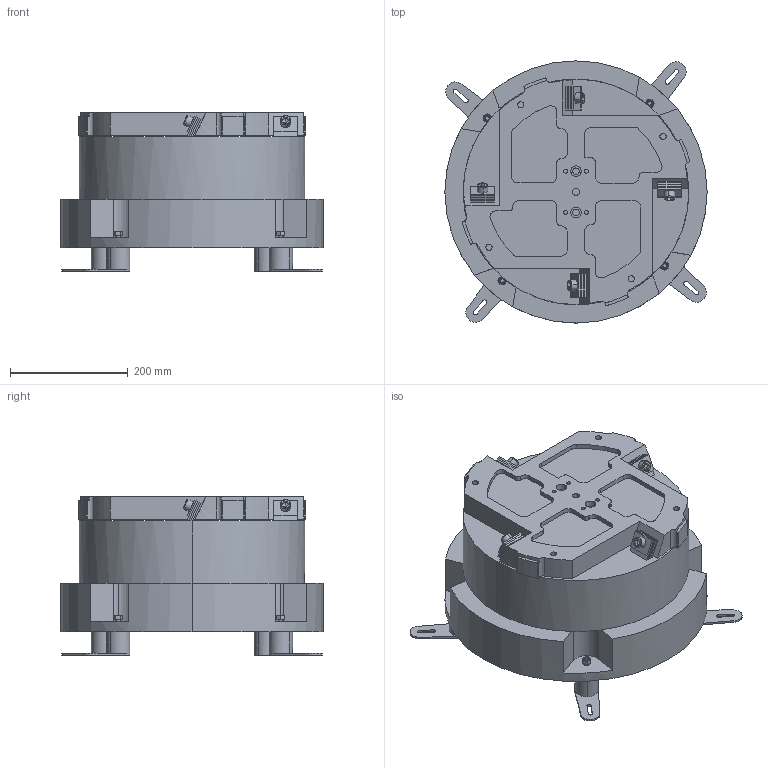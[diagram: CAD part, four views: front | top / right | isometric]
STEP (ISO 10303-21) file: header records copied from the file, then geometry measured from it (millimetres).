
FILE_DESCRIPTION(/* description */ (''),/* implementation_level */ '2;1');
FILE_NAME(/* name */ 'DF400.stp',/* time_stamp */ '2022-04-15T11:04:06+08:00',/* author */ (''),/* organization */ (''),/* preprocessor_version */ 'ST-DEVELOPER v18.102',/* originating_system */ 'SIEMENS PLM Software NX 2019',/* authorisation */ '');
FILE_SCHEMA (('AUTOMOTIVE_DESIGN { 1 0 10303 214 3 1 1 1 }'));
Length unit declared in the file: millimetre
Products named in the file (1): DF400_stp_objects
Bounding box: 445 x 445 x 269 mm (x, y, z)
Volume: 24834521.9 mm3; surface area: 1045689.7 mm2
Topology: 34 solids, 34 shells, 651 faces, 1602 edges, 1028 vertices
Faces by surface type: plane 328, cylinder 247, cone 68, torus 8
Entity records: 20240 total; most frequent: CARTESIAN_POINT 3714, DIRECTION 3456, ORIENTED_EDGE 3172, EDGE_CURVE 1586, AXIS2_PLACEMENT_3D 1282, VERTEX_POINT 1028, LINE 892, VECTOR 892
